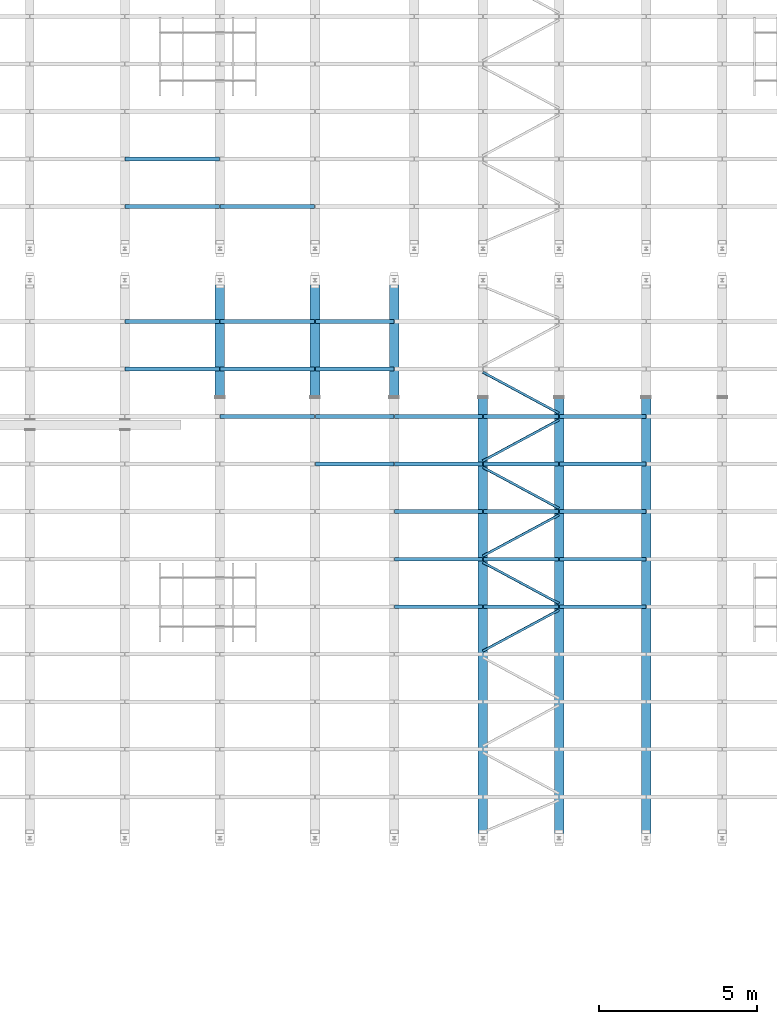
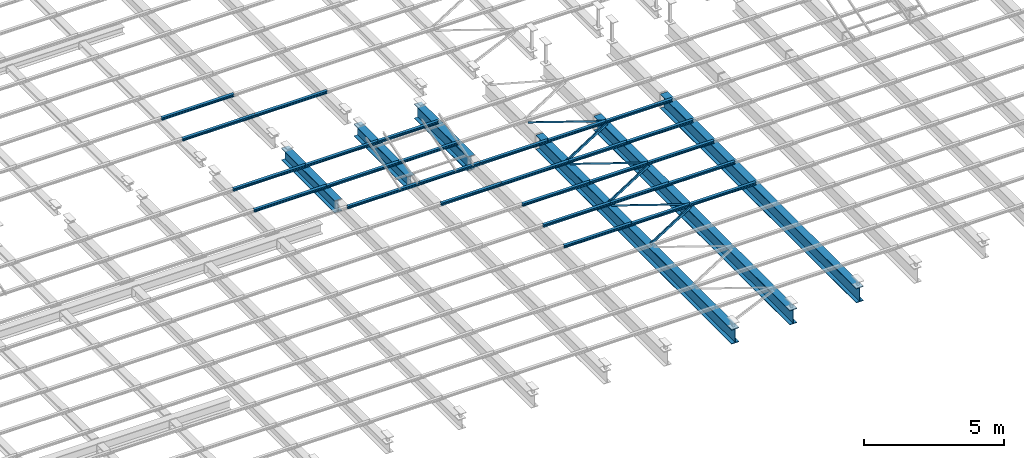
# One storey, part 72 of 139: 39 beams.
"""IFC2X3 building model written with IfcOpenShell, lengths in metres."""

from ifc_helpers import new_model, entity, si_unit, converted_unit, derived_unit, frame, origin, place, context, subcontext, project, spatial, polyline, outline, extrude, material, element, save


model = new_model("IFC2X3")

# Units and contexts
model_context = context("Model", 3, precision=1e-05, world=origin())
body_context = subcontext(model_context, "Body", "Model", "MODEL_VIEW")
ifc_project = project(units=[si_unit("LENGTHUNIT", "METRE"), si_unit("AREAUNIT", "SQUARE_METRE"), si_unit("VOLUMEUNIT", "CUBIC_METRE"), si_unit("MASSUNIT", "GRAM", prefix="KILO"), converted_unit("PLANEANGLEUNIT", "DEGREE", entity("IfcPlaneAngleMeasure", 0.0174532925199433), si_unit("PLANEANGLEUNIT", "RADIAN"), dimensions=[0, 0, 0, 0, 0, 0, 0]), derived_unit("THERMALTRANSMITTANCEUNIT", [(si_unit("POWERUNIT", "WATT"), 1), (si_unit("THERMODYNAMICTEMPERATUREUNIT", "KELVIN"), -1), (si_unit("LENGTHUNIT", "METRE"), -2)]), derived_unit("VOLUMETRICFLOWRATEUNIT", [(si_unit("LENGTHUNIT", "METRE"), 3), (converted_unit("TIMEUNIT", "hour", entity("IfcTimeMeasure", 3600.0), si_unit("TIMEUNIT", "SECOND"), dimensions=[0, 0, 1, 0, 0, 0, 0]), -1), (si_unit("LENGTHUNIT", "METRE"), -1)])], contexts=[model_context])

# Site, building, storey
site_placement = place(None, origin())
site = spatial("IfcSite", under=ifc_project, at=site_placement, Name="TWP_Speiseverteilzentrum SBW VZ II", CompositionType="ELEMENT")
building_placement = place(site_placement, origin())
building = spatial("IfcBuilding", under=site, at=building_placement, Name="Speiseverteilzentrum SBW VZ II", CompositionType="ELEMENT")
storey_placement = place(building_placement, frame((0.0, 0.0, 7.1307)))
storey = spatial("IfcBuildingStorey", under=building, at=storey_placement, Name="Wartung_FFB", CompositionType="ELEMENT", Elevation=7.1307)

# Beams
ifc_material_1 = material(Name="S235")
beam_1_placement = place(storey_placement, frame((81.5500000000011, 70.0522526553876, -0.51), z_axis=(0.0, 0.0, 1.0), x_axis=(-1.0, 0.0, 0.0)))
element("IfcBeam", 1, at=beam_1_placement, inside=storey, material=ifc_material_1, Name="Stahlträger", context=body_context, shape_type="SweptSolid", body=[
    extrude(outline(polyline([(-0.15, 0.32), (-0.15, 0.294), (-0.00675000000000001, 0.294), (-0.00675000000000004, -0.294), (-0.15, -0.294), (-0.15, -0.32), (0.15, -0.32), (0.15, -0.294), (0.00674999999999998, -0.294), (0.00675000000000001, 0.294), (0.15, 0.294), (0.15, 0.32), (-0.15, 0.32)])), frame((0.0, 0.0, 0.0), z_axis=(0.0, 1.0, 0.0), x_axis=(-1.0, 0.0, 0.0)), (0.0, 0.0, 1.0), 3.81699999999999),
])
ifc_material_2 = material(Name="S235")
beam_2_placement = place(storey_placement, frame((76.0500000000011, 70.0522526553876, -0.46), z_axis=(0.0, 0.0, 1.0), x_axis=(-1.0, 0.0, 0.0)))
element("IfcBeam", 2, at=beam_2_placement, inside=storey, material=ifc_material_2, Name="Stahlträger", context=body_context, shape_type="SweptSolid", body=[
    extrude(outline(polyline([(-0.15, 0.27), (-0.15, 0.246), (-0.0062499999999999, 0.246), (-0.00624999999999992, -0.246), (-0.15, -0.246), (-0.15, -0.27), (0.15, -0.27), (0.15, -0.246), (0.00625000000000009, -0.246), (0.00625000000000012, 0.246), (0.15, 0.246), (0.15, 0.27), (-0.15, 0.27)])), frame((0.0, 0.0, 0.0), z_axis=(0.0, 1.0, 0.0), x_axis=(-1.0, 0.0, 0.0)), (0.0, 0.0, 1.0), 3.81699999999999),
])
ifc_material_3 = material(Name="S235")
beam_3_placement = place(storey_placement, frame((79.0500000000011, 70.0522526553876, -0.46), z_axis=(0.0, 0.0, 1.0), x_axis=(-1.0, 0.0, 0.0)))
element("IfcBeam", 3, at=beam_3_placement, inside=storey, material=ifc_material_3, Name="Stahlträger", context=body_context, shape_type="SweptSolid", body=[
    extrude(outline(polyline([(-0.15, 0.27), (-0.15, 0.246), (-0.0062499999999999, 0.246), (-0.00624999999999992, -0.246), (-0.15, -0.246), (-0.15, -0.27), (0.15, -0.27), (0.15, -0.246), (0.00625000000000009, -0.246), (0.00625000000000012, 0.246), (0.15, 0.246), (0.15, 0.27), (-0.15, 0.27)])), frame((0.0, 0.0, 0.0), z_axis=(0.0, 1.0, 0.0), x_axis=(-1.0, 0.0, 0.0)), (0.0, 0.0, 1.0), 3.81699999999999),
])
ifc_material_4 = material(Name="S235")
beam_4_placement = place(storey_placement, frame((84.3500000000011, 66.1852526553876, -0.51), z_axis=(0.0, 0.0, 1.0), x_axis=(-1.0, 0.0, 0.0)))
element("IfcBeam", 4, at=beam_4_placement, inside=storey, material=ifc_material_4, Name="Stahlträger", context=body_context, shape_type="SweptSolid", body=[
    extrude(outline(polyline([(-0.15, 0.32), (-0.15, 0.294), (-0.00675000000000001, 0.294), (-0.00675000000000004, -0.294), (-0.15, -0.294), (-0.15, -0.32), (0.15, -0.32), (0.15, -0.294), (0.00674999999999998, -0.294), (0.00675000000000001, 0.294), (0.15, 0.294), (0.15, 0.32), (-0.15, 0.32)])), frame((0.0, 0.0, 0.0), z_axis=(0.0, 1.0, 0.0), x_axis=(-1.0, 0.0, 0.0)), (0.0, 0.0, 1.0), 14.0352526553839),
])
ifc_material_5 = material(Name="S235")
beam_5_placement = place(storey_placement, frame((86.7500000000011, 66.1852526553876, -0.51), z_axis=(0.0, 0.0, 1.0), x_axis=(-1.0, 0.0, 0.0)))
element("IfcBeam", 5, at=beam_5_placement, inside=storey, material=ifc_material_5, Name="Stahlträger", context=body_context, shape_type="SweptSolid", body=[
    extrude(outline(polyline([(-0.15, 0.32), (-0.15, 0.294), (-0.00675000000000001, 0.294), (-0.00675000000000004, -0.294), (-0.15, -0.294), (-0.15, -0.32), (0.15, -0.32), (0.15, -0.294), (0.00674999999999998, -0.294), (0.00675000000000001, 0.294), (0.15, 0.294), (0.15, 0.32), (-0.15, 0.32)])), frame((0.0, 0.0, 0.0), z_axis=(0.0, 1.0, 0.0), x_axis=(-1.0, 0.0, 0.0)), (0.0, 0.0, 1.0), 14.0352526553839),
])
ifc_material_6 = material(Name="S235")
beam_6_placement = place(storey_placement, frame((89.5000000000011, 66.1852526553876, -0.51), z_axis=(0.0, 0.0, 1.0), x_axis=(-1.0, 0.0, 0.0)))
element("IfcBeam", 6, at=beam_6_placement, inside=storey, material=ifc_material_6, Name="Stahlträger", context=body_context, shape_type="SweptSolid", body=[
    extrude(outline(polyline([(-0.15, 0.32), (-0.15, 0.294), (-0.00675000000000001, 0.294), (-0.00675000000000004, -0.294), (-0.15, -0.294), (-0.15, -0.32), (0.15, -0.32), (0.15, -0.294), (0.00674999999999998, -0.294), (0.00675000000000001, 0.294), (0.15, 0.294), (0.15, 0.32), (-0.15, 0.32)])), frame((0.0, 0.0, 0.0), z_axis=(0.0, 1.0, 0.0), x_axis=(-1.0, 0.0, 0.0)), (0.0, 0.0, 1.0), 14.0352526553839),
])
ifc_material_7 = material(Name="S235")
beam_7_placement = place(storey_placement, frame((73.0600000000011, 73.7261263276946, -0.133), z_axis=(0.0, 0.0, 1.0), x_axis=(0.0, -1.0, 0.0)))
element("IfcBeam", 7, at=beam_7_placement, inside=storey, material=ifc_material_7, Name="Nebenträger", context=body_context, shape_type="SweptSolid", body=[
    extrude(outline(polyline([(-0.06, 0.0570000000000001), (-0.06, 0.0490000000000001), (-0.00249999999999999, 0.0490000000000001), (-0.0025, -0.0489999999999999), (-0.06, -0.0489999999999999), (-0.06, -0.0569999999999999), (0.06, -0.0569999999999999), (0.06, -0.0489999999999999), (0.0025, -0.0489999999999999), (0.00250000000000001, 0.0490000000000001), (0.06, 0.0490000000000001), (0.06, 0.0570000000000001), (-0.06, 0.0570000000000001)])), frame((0.0, 0.0, 0.0), z_axis=(0.0, 1.0, 0.0), x_axis=(-1.0, 0.0, 0.0)), (0.0, 0.0, 1.0), 2.98),
])
ifc_material_8 = material(Name="S235")
beam_8_placement = place(storey_placement, frame((73.0600000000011, 72.2261263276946, -0.133), z_axis=(0.0, 0.0, 1.0), x_axis=(0.0, -1.0, 0.0)))
element("IfcBeam", 8, at=beam_8_placement, inside=storey, material=ifc_material_8, Name="Nebenträger", context=body_context, shape_type="SweptSolid", body=[
    extrude(outline(polyline([(-0.06, 0.0570000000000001), (-0.06, 0.0490000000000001), (-0.00249999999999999, 0.0490000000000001), (-0.0025, -0.0489999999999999), (-0.06, -0.0489999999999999), (-0.06, -0.0569999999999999), (0.06, -0.0569999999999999), (0.06, -0.0489999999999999), (0.0025, -0.0489999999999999), (0.00250000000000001, 0.0490000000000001), (0.06, 0.0490000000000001), (0.06, 0.0570000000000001), (-0.06, 0.0570000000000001)])), frame((0.0, 0.0, 0.0), z_axis=(0.0, 1.0, 0.0), x_axis=(-1.0, 0.0, 0.0)), (0.0, 0.0, 1.0), 2.98),
])
ifc_material_9 = material(Name="S235")
beam_9_placement = place(storey_placement, frame((76.0600000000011, 72.2261263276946, -0.133), z_axis=(0.0, 0.0, 1.0), x_axis=(0.0, -1.0, 0.0)))
element("IfcBeam", 9, at=beam_9_placement, inside=storey, material=ifc_material_9, Name="Nebenträger", context=body_context, shape_type="SweptSolid", body=[
    extrude(outline(polyline([(-0.06, 0.0570000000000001), (-0.06, 0.0490000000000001), (-0.00249999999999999, 0.0490000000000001), (-0.0025, -0.0489999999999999), (-0.06, -0.0489999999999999), (-0.06, -0.0569999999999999), (0.06, -0.0569999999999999), (0.06, -0.0489999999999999), (0.0025, -0.0489999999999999), (0.00250000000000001, 0.0490000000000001), (0.06, 0.0490000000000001), (0.06, 0.0570000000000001), (-0.06, 0.0570000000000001)])), frame((0.0, 0.0, 0.0), z_axis=(0.0, 1.0, 0.0), x_axis=(-1.0, 0.0, 0.0)), (0.0, 0.0, 1.0), 2.98),
])
ifc_material_10 = material(Name="S235")
beam_10_placement = place(storey_placement, frame((73.0600000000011, 68.6011263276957, -0.133), z_axis=(0.0, 0.0, 1.0), x_axis=(0.0, -1.0, 0.0)))
element("IfcBeam", 10, at=beam_10_placement, inside=storey, material=ifc_material_10, Name="Nebenträger", context=body_context, shape_type="SweptSolid", body=[
    extrude(outline(polyline([(-0.06, 0.0570000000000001), (-0.06, 0.0490000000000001), (-0.00249999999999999, 0.0490000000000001), (-0.0025, -0.0489999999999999), (-0.06, -0.0489999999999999), (-0.06, -0.0569999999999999), (0.06, -0.0569999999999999), (0.06, -0.0489999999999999), (0.0025, -0.0489999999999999), (0.00250000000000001, 0.0490000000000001), (0.06, 0.0490000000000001), (0.06, 0.0570000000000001), (-0.06, 0.0570000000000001)])), frame((0.0, 0.0, 0.0), z_axis=(0.0, 1.0, 0.0), x_axis=(-1.0, 0.0, 0.0)), (0.0, 0.0, 1.0), 2.98),
])
ifc_material_11 = material(Name="S235")
beam_11_placement = place(storey_placement, frame((76.0600000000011, 68.6011263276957, -0.133), z_axis=(0.0, 0.0, 1.0), x_axis=(0.0, -1.0, 0.0)))
element("IfcBeam", 11, at=beam_11_placement, inside=storey, material=ifc_material_11, Name="Nebenträger", context=body_context, shape_type="SweptSolid", body=[
    extrude(outline(polyline([(-0.06, 0.0570000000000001), (-0.06, 0.0490000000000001), (-0.00249999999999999, 0.0490000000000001), (-0.0025, -0.0489999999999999), (-0.06, -0.0489999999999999), (-0.06, -0.0569999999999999), (0.06, -0.0569999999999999), (0.06, -0.0489999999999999), (0.0025, -0.0489999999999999), (0.00250000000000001, 0.0490000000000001), (0.06, 0.0490000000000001), (0.06, 0.0570000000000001), (-0.06, 0.0570000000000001)])), frame((0.0, 0.0, 0.0), z_axis=(0.0, 1.0, 0.0), x_axis=(-1.0, 0.0, 0.0)), (0.0, 0.0, 1.0), 2.98),
])
ifc_material_12 = material(Name="S235")
beam_12_placement = place(storey_placement, frame((73.0600000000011, 67.1011263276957, -0.133), z_axis=(0.0, 0.0, 1.0), x_axis=(0.0, -1.0, 0.0)))
element("IfcBeam", 12, at=beam_12_placement, inside=storey, material=ifc_material_12, Name="Nebenträger", context=body_context, shape_type="SweptSolid", body=[
    extrude(outline(polyline([(-0.06, 0.0570000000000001), (-0.06, 0.0490000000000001), (-0.00249999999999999, 0.0490000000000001), (-0.0025, -0.0489999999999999), (-0.06, -0.0489999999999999), (-0.06, -0.0569999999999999), (0.06, -0.0569999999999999), (0.06, -0.0489999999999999), (0.0025, -0.0489999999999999), (0.00250000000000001, 0.0490000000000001), (0.06, 0.0490000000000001), (0.06, 0.0570000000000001), (-0.06, 0.0570000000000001)])), frame((0.0, 0.0, 0.0), z_axis=(0.0, 1.0, 0.0), x_axis=(-1.0, 0.0, 0.0)), (0.0, 0.0, 1.0), 2.98),
])
ifc_material_13 = material(Name="S235")
beam_13_placement = place(storey_placement, frame((76.0600000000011, 67.1011263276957, -0.133), z_axis=(0.0, 0.0, 1.0), x_axis=(0.0, -1.0, 0.0)))
element("IfcBeam", 13, at=beam_13_placement, inside=storey, material=ifc_material_13, Name="Nebenträger", context=body_context, shape_type="SweptSolid", body=[
    extrude(outline(polyline([(-0.06, 0.0570000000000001), (-0.06, 0.0490000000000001), (-0.00249999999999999, 0.0490000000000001), (-0.0025, -0.0489999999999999), (-0.06, -0.0489999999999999), (-0.06, -0.0569999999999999), (0.06, -0.0569999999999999), (0.06, -0.0489999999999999), (0.0025, -0.0489999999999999), (0.00250000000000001, 0.0490000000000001), (0.06, 0.0490000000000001), (0.06, 0.0570000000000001), (-0.06, 0.0570000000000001)])), frame((0.0, 0.0, 0.0), z_axis=(0.0, 1.0, 0.0), x_axis=(-1.0, 0.0, 0.0)), (0.0, 0.0, 1.0), 2.98),
])
ifc_material_14 = material(Name="S235")
beam_14_placement = place(storey_placement, frame((76.0600000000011, 65.6011263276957, -0.133), z_axis=(0.0, 0.0, 1.0), x_axis=(0.0, -1.0, 0.0)))
element("IfcBeam", 14, at=beam_14_placement, inside=storey, material=ifc_material_14, Name="Nebenträger", context=body_context, shape_type="SweptSolid", body=[
    extrude(outline(polyline([(-0.06, 0.0570000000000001), (-0.06, 0.0490000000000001), (-0.00249999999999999, 0.0490000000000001), (-0.0025, -0.0489999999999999), (-0.06, -0.0489999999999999), (-0.06, -0.0569999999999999), (0.06, -0.0569999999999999), (0.06, -0.0489999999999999), (0.0025, -0.0489999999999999), (0.00250000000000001, 0.0490000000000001), (0.06, 0.0490000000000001), (0.06, 0.0570000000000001), (-0.06, 0.0570000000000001)])), frame((0.0, 0.0, 0.0), z_axis=(0.0, 1.0, 0.0), x_axis=(-1.0, 0.0, 0.0)), (0.0, 0.0, 1.0), 2.98),
])
ifc_material_15 = material(Name="S235")
beam_15_placement = place(storey_placement, frame((79.0600000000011, 68.6011263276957, -0.133), z_axis=(0.0, 0.0, 1.0), x_axis=(0.0, -1.0, 0.0)))
element("IfcBeam", 15, at=beam_15_placement, inside=storey, material=ifc_material_15, Name="Nebenträger", context=body_context, shape_type="SweptSolid", body=[
    extrude(outline(polyline([(-0.06, 0.0570000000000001), (-0.06, 0.0490000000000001), (-0.00249999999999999, 0.0490000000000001), (-0.0025, -0.0489999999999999), (-0.06, -0.0489999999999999), (-0.06, -0.0569999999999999), (0.06, -0.0569999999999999), (0.06, -0.0489999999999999), (0.0025, -0.0489999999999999), (0.00250000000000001, 0.0490000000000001), (0.06, 0.0490000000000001), (0.06, 0.0570000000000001), (-0.06, 0.0570000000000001)])), frame((0.0, 0.0, 0.0), z_axis=(0.0, 1.0, 0.0), x_axis=(-1.0, 0.0, 0.0)), (0.0, 0.0, 1.0), 2.48),
])
ifc_material_16 = material(Name="S235")
beam_16_placement = place(storey_placement, frame((79.0600000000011, 67.1011263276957, -0.133), z_axis=(0.0, 0.0, 1.0), x_axis=(0.0, -1.0, 0.0)))
element("IfcBeam", 16, at=beam_16_placement, inside=storey, material=ifc_material_16, Name="Nebenträger", context=body_context, shape_type="SweptSolid", body=[
    extrude(outline(polyline([(-0.06, 0.0570000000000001), (-0.06, 0.0490000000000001), (-0.00249999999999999, 0.0490000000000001), (-0.0025, -0.0489999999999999), (-0.06, -0.0489999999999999), (-0.06, -0.0569999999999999), (0.06, -0.0569999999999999), (0.06, -0.0489999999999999), (0.0025, -0.0489999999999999), (0.00250000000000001, 0.0490000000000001), (0.06, 0.0490000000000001), (0.06, 0.0570000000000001), (-0.06, 0.0570000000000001)])), frame((0.0, 0.0, 0.0), z_axis=(0.0, 1.0, 0.0), x_axis=(-1.0, 0.0, 0.0)), (0.0, 0.0, 1.0), 2.48),
])
ifc_material_17 = material(Name="S235")
beam_17_placement = place(storey_placement, frame((79.0600000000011, 65.6011263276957, -0.133), z_axis=(0.0, 0.0, 1.0), x_axis=(0.0, -1.0, 0.0)))
element("IfcBeam", 17, at=beam_17_placement, inside=storey, material=ifc_material_17, Name="Nebenträger", context=body_context, shape_type="SweptSolid", body=[
    extrude(outline(polyline([(-0.06, 0.0570000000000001), (-0.06, 0.0490000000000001), (-0.00249999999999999, 0.0490000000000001), (-0.0025, -0.0489999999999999), (-0.06, -0.0489999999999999), (-0.06, -0.0569999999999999), (0.06, -0.0569999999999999), (0.06, -0.0489999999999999), (0.0025, -0.0489999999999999), (0.00250000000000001, 0.0490000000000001), (0.06, 0.0490000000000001), (0.06, 0.0570000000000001), (-0.06, 0.0570000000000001)])), frame((0.0, 0.0, 0.0), z_axis=(0.0, 1.0, 0.0), x_axis=(-1.0, 0.0, 0.0)), (0.0, 0.0, 1.0), 2.48),
])
ifc_material_18 = material(Name="S235")
beam_18_placement = place(storey_placement, frame((79.0600000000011, 64.1011263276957, -0.133), z_axis=(0.0, 0.0, 1.0), x_axis=(0.0, -1.0, 0.0)))
element("IfcBeam", 18, at=beam_18_placement, inside=storey, material=ifc_material_18, Name="Nebenträger", context=body_context, shape_type="SweptSolid", body=[
    extrude(outline(polyline([(-0.06, 0.0570000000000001), (-0.06, 0.0490000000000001), (-0.00249999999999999, 0.0490000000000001), (-0.0025, -0.0489999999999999), (-0.06, -0.0489999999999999), (-0.06, -0.0569999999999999), (0.06, -0.0569999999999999), (0.06, -0.0489999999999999), (0.0025, -0.0489999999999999), (0.00250000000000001, 0.0490000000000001), (0.06, 0.0490000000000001), (0.06, 0.0570000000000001), (-0.06, 0.0570000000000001)])), frame((0.0, 0.0, 0.0), z_axis=(0.0, 1.0, 0.0), x_axis=(-1.0, 0.0, 0.0)), (0.0, 0.0, 1.0), 2.48),
])
ifc_material_19 = material(Name="S235")
beam_19_placement = place(storey_placement, frame((81.5600000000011, 65.6011263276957, -0.133), z_axis=(0.0, 0.0, 1.0), x_axis=(0.0, -1.0, 0.0)))
element("IfcBeam", 19, at=beam_19_placement, inside=storey, material=ifc_material_19, Name="Nebenträger", context=body_context, shape_type="SweptSolid", body=[
    extrude(outline(polyline([(-0.06, 0.0570000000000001), (-0.06, 0.0490000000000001), (-0.00249999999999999, 0.0490000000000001), (-0.0025, -0.0489999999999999), (-0.06, -0.0489999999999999), (-0.06, -0.0569999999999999), (0.06, -0.0569999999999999), (0.06, -0.0489999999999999), (0.0025, -0.0489999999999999), (0.00250000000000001, 0.0490000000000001), (0.06, 0.0490000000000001), (0.06, 0.0570000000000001), (-0.06, 0.0570000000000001)])), frame((0.0, 0.0, 0.0), z_axis=(0.0, 1.0, 0.0), x_axis=(-1.0, 0.0, 0.0)), (0.0, 0.0, 1.0), 2.78),
])
ifc_material_20 = material(Name="S235")
beam_20_placement = place(storey_placement, frame((81.5600000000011, 64.1011263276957, -0.133), z_axis=(0.0, 0.0, 1.0), x_axis=(0.0, -1.0, 0.0)))
element("IfcBeam", 20, at=beam_20_placement, inside=storey, material=ifc_material_20, Name="Nebenträger", context=body_context, shape_type="SweptSolid", body=[
    extrude(outline(polyline([(-0.06, 0.0570000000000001), (-0.06, 0.0490000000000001), (-0.00249999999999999, 0.0490000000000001), (-0.0025, -0.0489999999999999), (-0.06, -0.0489999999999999), (-0.06, -0.0569999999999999), (0.06, -0.0569999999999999), (0.06, -0.0489999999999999), (0.0025, -0.0489999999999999), (0.00250000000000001, 0.0490000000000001), (0.06, 0.0490000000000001), (0.06, 0.0570000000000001), (-0.06, 0.0570000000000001)])), frame((0.0, 0.0, 0.0), z_axis=(0.0, 1.0, 0.0), x_axis=(-1.0, 0.0, 0.0)), (0.0, 0.0, 1.0), 2.78),
])
ifc_material_21 = material(Name="S235")
beam_21_placement = place(storey_placement, frame((81.5600000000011, 62.6011263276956, -0.133), z_axis=(0.0, 0.0, 1.0), x_axis=(0.0, -1.0, 0.0)))
element("IfcBeam", 21, at=beam_21_placement, inside=storey, material=ifc_material_21, Name="Nebenträger", context=body_context, shape_type="SweptSolid", body=[
    extrude(outline(polyline([(-0.06, 0.0570000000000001), (-0.06, 0.0490000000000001), (-0.00249999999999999, 0.0490000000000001), (-0.0025, -0.0489999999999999), (-0.06, -0.0489999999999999), (-0.06, -0.0569999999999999), (0.06, -0.0569999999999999), (0.06, -0.0489999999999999), (0.0025, -0.0489999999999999), (0.00250000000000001, 0.0490000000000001), (0.06, 0.0490000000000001), (0.06, 0.0570000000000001), (-0.06, 0.0570000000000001)])), frame((0.0, 0.0, 0.0), z_axis=(0.0, 1.0, 0.0), x_axis=(-1.0, 0.0, 0.0)), (0.0, 0.0, 1.0), 2.78),
])
ifc_material_22 = material(Name="S235")
beam_22_placement = place(storey_placement, frame((81.5600000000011, 61.1011263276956, -0.133), z_axis=(0.0, 0.0, 1.0), x_axis=(0.0, -1.0, 0.0)))
element("IfcBeam", 22, at=beam_22_placement, inside=storey, material=ifc_material_22, Name="Nebenträger", context=body_context, shape_type="SweptSolid", body=[
    extrude(outline(polyline([(-0.06, 0.0570000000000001), (-0.06, 0.0490000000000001), (-0.00249999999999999, 0.0490000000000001), (-0.0025, -0.0489999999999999), (-0.06, -0.0489999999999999), (-0.06, -0.0569999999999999), (0.06, -0.0569999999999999), (0.06, -0.0489999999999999), (0.0025, -0.0489999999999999), (0.00250000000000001, 0.0490000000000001), (0.06, 0.0490000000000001), (0.06, 0.0570000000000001), (-0.06, 0.0570000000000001)])), frame((0.0, 0.0, 0.0), z_axis=(0.0, 1.0, 0.0), x_axis=(-1.0, 0.0, 0.0)), (0.0, 0.0, 1.0), 2.78),
])
ifc_material_23 = material(Name="S235")
beam_23_placement = place(storey_placement, frame((81.5600000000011, 59.6011263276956, -0.133), z_axis=(0.0, 0.0, 1.0), x_axis=(0.0, -1.0, 0.0)))
element("IfcBeam", 23, at=beam_23_placement, inside=storey, material=ifc_material_23, Name="Nebenträger", context=body_context, shape_type="SweptSolid", body=[
    extrude(outline(polyline([(-0.06, 0.0570000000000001), (-0.06, 0.0490000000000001), (-0.00249999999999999, 0.0490000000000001), (-0.0025, -0.0489999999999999), (-0.06, -0.0489999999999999), (-0.06, -0.0569999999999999), (0.06, -0.0569999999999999), (0.06, -0.0489999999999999), (0.0025, -0.0489999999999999), (0.00250000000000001, 0.0490000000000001), (0.06, 0.0490000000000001), (0.06, 0.0570000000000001), (-0.06, 0.0570000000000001)])), frame((0.0, 0.0, 0.0), z_axis=(0.0, 1.0, 0.0), x_axis=(-1.0, 0.0, 0.0)), (0.0, 0.0, 1.0), 2.78),
])
ifc_material_24 = material(Name="S235")
beam_24_placement = place(storey_placement, frame((84.3600000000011, 65.6011263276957, -0.133), z_axis=(0.0, 0.0, 1.0), x_axis=(0.0, -1.0, 0.0)))
element("IfcBeam", 24, at=beam_24_placement, inside=storey, material=ifc_material_24, Name="Nebenträger", context=body_context, shape_type="SweptSolid", body=[
    extrude(outline(polyline([(-0.06, 0.0570000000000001), (-0.06, 0.0490000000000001), (-0.00249999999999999, 0.0490000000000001), (-0.0025, -0.0489999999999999), (-0.06, -0.0489999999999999), (-0.06, -0.0569999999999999), (0.06, -0.0569999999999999), (0.06, -0.0489999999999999), (0.0025, -0.0489999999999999), (0.00250000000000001, 0.0490000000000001), (0.06, 0.0490000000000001), (0.06, 0.0570000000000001), (-0.06, 0.0570000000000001)])), frame((0.0, 0.0, 0.0), z_axis=(0.0, 1.0, 0.0), x_axis=(-1.0, 0.0, 0.0)), (0.0, 0.0, 1.0), 2.38),
])
ifc_material_25 = material(Name="S235")
beam_25_placement = place(storey_placement, frame((84.3600000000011, 64.1011263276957, -0.133), z_axis=(0.0, 0.0, 1.0), x_axis=(0.0, -1.0, 0.0)))
element("IfcBeam", 25, at=beam_25_placement, inside=storey, material=ifc_material_25, Name="Nebenträger", context=body_context, shape_type="SweptSolid", body=[
    extrude(outline(polyline([(-0.06, 0.0570000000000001), (-0.06, 0.0490000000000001), (-0.00249999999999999, 0.0490000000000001), (-0.0025, -0.0489999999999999), (-0.06, -0.0489999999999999), (-0.06, -0.0569999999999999), (0.06, -0.0569999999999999), (0.06, -0.0489999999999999), (0.0025, -0.0489999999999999), (0.00250000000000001, 0.0490000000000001), (0.06, 0.0490000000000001), (0.06, 0.0570000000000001), (-0.06, 0.0570000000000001)])), frame((0.0, 0.0, 0.0), z_axis=(0.0, 1.0, 0.0), x_axis=(-1.0, 0.0, 0.0)), (0.0, 0.0, 1.0), 2.38),
])
ifc_material_26 = material(Name="S235")
beam_26_placement = place(storey_placement, frame((84.3600000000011, 62.6011263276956, -0.133), z_axis=(0.0, 0.0, 1.0), x_axis=(0.0, -1.0, 0.0)))
element("IfcBeam", 26, at=beam_26_placement, inside=storey, material=ifc_material_26, Name="Nebenträger", context=body_context, shape_type="SweptSolid", body=[
    extrude(outline(polyline([(-0.06, 0.0570000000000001), (-0.06, 0.0490000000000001), (-0.00249999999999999, 0.0490000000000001), (-0.0025, -0.0489999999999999), (-0.06, -0.0489999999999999), (-0.06, -0.0569999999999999), (0.06, -0.0569999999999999), (0.06, -0.0489999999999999), (0.0025, -0.0489999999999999), (0.00250000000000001, 0.0490000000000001), (0.06, 0.0490000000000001), (0.06, 0.0570000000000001), (-0.06, 0.0570000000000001)])), frame((0.0, 0.0, 0.0), z_axis=(0.0, 1.0, 0.0), x_axis=(-1.0, 0.0, 0.0)), (0.0, 0.0, 1.0), 2.38),
])
ifc_material_27 = material(Name="S235")
beam_27_placement = place(storey_placement, frame((84.3600000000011, 61.1011263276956, -0.133), z_axis=(0.0, 0.0, 1.0), x_axis=(0.0, -1.0, 0.0)))
element("IfcBeam", 27, at=beam_27_placement, inside=storey, material=ifc_material_27, Name="Nebenträger", context=body_context, shape_type="SweptSolid", body=[
    extrude(outline(polyline([(-0.06, 0.0570000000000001), (-0.06, 0.0490000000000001), (-0.00249999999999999, 0.0490000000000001), (-0.0025, -0.0489999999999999), (-0.06, -0.0489999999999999), (-0.06, -0.0569999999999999), (0.06, -0.0569999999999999), (0.06, -0.0489999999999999), (0.0025, -0.0489999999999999), (0.00250000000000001, 0.0490000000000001), (0.06, 0.0490000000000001), (0.06, 0.0570000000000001), (-0.06, 0.0570000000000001)])), frame((0.0, 0.0, 0.0), z_axis=(0.0, 1.0, 0.0), x_axis=(-1.0, 0.0, 0.0)), (0.0, 0.0, 1.0), 2.38),
])
ifc_material_28 = material(Name="S235")
beam_28_placement = place(storey_placement, frame((84.3600000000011, 59.6011263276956, -0.133), z_axis=(0.0, 0.0, 1.0), x_axis=(0.0, -1.0, 0.0)))
element("IfcBeam", 28, at=beam_28_placement, inside=storey, material=ifc_material_28, Name="Nebenträger", context=body_context, shape_type="SweptSolid", body=[
    extrude(outline(polyline([(-0.06, 0.0570000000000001), (-0.06, 0.0490000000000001), (-0.00249999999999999, 0.0490000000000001), (-0.0025, -0.0489999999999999), (-0.06, -0.0489999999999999), (-0.06, -0.0569999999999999), (0.06, -0.0569999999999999), (0.06, -0.0489999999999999), (0.0025, -0.0489999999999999), (0.00250000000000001, 0.0490000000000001), (0.06, 0.0490000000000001), (0.06, 0.0570000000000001), (-0.06, 0.0570000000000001)])), frame((0.0, 0.0, 0.0), z_axis=(0.0, 1.0, 0.0), x_axis=(-1.0, 0.0, 0.0)), (0.0, 0.0, 1.0), 2.38),
])
ifc_material_29 = material(Name="S235")
beam_29_placement = place(storey_placement, frame((86.7600000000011, 65.6011263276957, -0.133), z_axis=(0.0, 0.0, 1.0), x_axis=(0.0, -1.0, 0.0)))
element("IfcBeam", 29, at=beam_29_placement, inside=storey, material=ifc_material_29, Name="Nebenträger", context=body_context, shape_type="SweptSolid", body=[
    extrude(outline(polyline([(-0.06, 0.0570000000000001), (-0.06, 0.0490000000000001), (-0.00249999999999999, 0.0490000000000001), (-0.0025, -0.0489999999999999), (-0.06, -0.0489999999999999), (-0.06, -0.0569999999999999), (0.06, -0.0569999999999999), (0.06, -0.0489999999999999), (0.0025, -0.0489999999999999), (0.00250000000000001, 0.0490000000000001), (0.06, 0.0490000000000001), (0.06, 0.0570000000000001), (-0.06, 0.0570000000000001)])), frame((0.0, 0.0, 0.0), z_axis=(0.0, 1.0, 0.0), x_axis=(-1.0, 0.0, 0.0)), (0.0, 0.0, 1.0), 2.73),
])
ifc_material_30 = material(Name="S235")
beam_30_placement = place(storey_placement, frame((86.7600000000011, 64.1011263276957, -0.133), z_axis=(0.0, 0.0, 1.0), x_axis=(0.0, -1.0, 0.0)))
element("IfcBeam", 30, at=beam_30_placement, inside=storey, material=ifc_material_30, Name="Nebenträger", context=body_context, shape_type="SweptSolid", body=[
    extrude(outline(polyline([(-0.06, 0.0570000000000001), (-0.06, 0.0490000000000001), (-0.00249999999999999, 0.0490000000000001), (-0.0025, -0.0489999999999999), (-0.06, -0.0489999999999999), (-0.06, -0.0569999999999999), (0.06, -0.0569999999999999), (0.06, -0.0489999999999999), (0.0025, -0.0489999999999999), (0.00250000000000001, 0.0490000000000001), (0.06, 0.0490000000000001), (0.06, 0.0570000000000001), (-0.06, 0.0570000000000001)])), frame((0.0, 0.0, 0.0), z_axis=(0.0, 1.0, 0.0), x_axis=(-1.0, 0.0, 0.0)), (0.0, 0.0, 1.0), 2.73),
])
ifc_material_31 = material(Name="S235")
beam_31_placement = place(storey_placement, frame((86.7600000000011, 62.6011263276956, -0.133), z_axis=(0.0, 0.0, 1.0), x_axis=(0.0, -1.0, 0.0)))
element("IfcBeam", 31, at=beam_31_placement, inside=storey, material=ifc_material_31, Name="Nebenträger", context=body_context, shape_type="SweptSolid", body=[
    extrude(outline(polyline([(-0.06, 0.0570000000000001), (-0.06, 0.0490000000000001), (-0.00249999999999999, 0.0490000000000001), (-0.0025, -0.0489999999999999), (-0.06, -0.0489999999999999), (-0.06, -0.0569999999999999), (0.06, -0.0569999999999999), (0.06, -0.0489999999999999), (0.0025, -0.0489999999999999), (0.00250000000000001, 0.0490000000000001), (0.06, 0.0490000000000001), (0.06, 0.0570000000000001), (-0.06, 0.0570000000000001)])), frame((0.0, 0.0, 0.0), z_axis=(0.0, 1.0, 0.0), x_axis=(-1.0, 0.0, 0.0)), (0.0, 0.0, 1.0), 2.73),
])
ifc_material_32 = material(Name="S235")
beam_32_placement = place(storey_placement, frame((86.7600000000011, 61.1011263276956, -0.133), z_axis=(0.0, 0.0, 1.0), x_axis=(0.0, -1.0, 0.0)))
element("IfcBeam", 32, at=beam_32_placement, inside=storey, material=ifc_material_32, Name="Nebenträger", context=body_context, shape_type="SweptSolid", body=[
    extrude(outline(polyline([(-0.06, 0.0570000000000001), (-0.06, 0.0490000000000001), (-0.00249999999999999, 0.0490000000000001), (-0.0025, -0.0489999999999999), (-0.06, -0.0489999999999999), (-0.06, -0.0569999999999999), (0.06, -0.0569999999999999), (0.06, -0.0489999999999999), (0.0025, -0.0489999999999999), (0.00250000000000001, 0.0490000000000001), (0.06, 0.0490000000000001), (0.06, 0.0570000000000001), (-0.06, 0.0570000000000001)])), frame((0.0, 0.0, 0.0), z_axis=(0.0, 1.0, 0.0), x_axis=(-1.0, 0.0, 0.0)), (0.0, 0.0, 1.0), 2.73),
])
ifc_material_33 = material(Name="S235")
beam_33_placement = place(storey_placement, frame((86.7600000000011, 59.6011263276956, -0.133), z_axis=(0.0, 0.0, 1.0), x_axis=(0.0, -1.0, 0.0)))
element("IfcBeam", 33, at=beam_33_placement, inside=storey, material=ifc_material_33, Name="Nebenträger", context=body_context, shape_type="SweptSolid", body=[
    extrude(outline(polyline([(-0.06, 0.0570000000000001), (-0.06, 0.0490000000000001), (-0.00249999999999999, 0.0490000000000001), (-0.0025, -0.0489999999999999), (-0.06, -0.0489999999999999), (-0.06, -0.0569999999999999), (0.06, -0.0569999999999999), (0.06, -0.0489999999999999), (0.0025, -0.0489999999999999), (0.00250000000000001, 0.0490000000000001), (0.06, 0.0490000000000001), (0.06, 0.0570000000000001), (-0.06, 0.0570000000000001)])), frame((0.0, 0.0, 0.0), z_axis=(0.0, 1.0, 0.0), x_axis=(-1.0, 0.0, 0.0)), (0.0, 0.0, 1.0), 2.73),
])
ifc_material_34 = material(Name="S235")
beam_34_placement = place(storey_placement, frame((84.3361915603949, 66.9849120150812, -0.167052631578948), z_axis=(0.0, 0.0, 1.0), x_axis=(-0.47480336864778, -0.880091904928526, 0.0)))
element("IfcBeam", 34, at=beam_34_placement, inside=storey, material=ifc_material_34, Name="Kreuzverband", context=body_context, shape_type="SweptSolid", body=[
    extrude(outline(polyline([(0.0570526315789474, -0.0229473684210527), (0.0570526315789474, -0.0149473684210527), (-0.0149473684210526, -0.0149473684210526), (-0.0149473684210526, 0.0570526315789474), (-0.0229473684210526, 0.0570526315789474), (-0.0229473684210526, -0.0229473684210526), (0.0570526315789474, -0.0229473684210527)])), frame((0.0, 0.0, 0.0), z_axis=(0.0, 1.00000000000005, 0.0), x_axis=(-1.0, 0.0, 0.0)), (0.0, 0.0, 1.0), 2.73000000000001),
])
ifc_material_35 = material(Name="S235")
beam_35_placement = place(storey_placement, frame((84.3361915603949, 64.2173406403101, -0.167052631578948), z_axis=(0.0, 0.0, 1.0), x_axis=(0.474803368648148, -0.880091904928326, 0.0)))
element("IfcBeam", 35, at=beam_35_placement, inside=storey, material=ifc_material_35, Name="Kreuzverband", context=body_context, shape_type="SweptSolid", body=[
    extrude(outline(polyline([(0.0229473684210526, -0.0229473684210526), (0.0229473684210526, 0.0570526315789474), (0.0149473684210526, 0.0570526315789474), (0.0149473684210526, -0.0149473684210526), (-0.0570526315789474, -0.0149473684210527), (-0.0570526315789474, -0.0229473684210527), (0.0229473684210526, -0.0229473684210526)])), frame((0.0, 0.0, 0.0), z_axis=(0.0, 1.00000000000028, 0.0), x_axis=(-1.0, 0.0, 0.0)), (0.0, 0.0, 1.0), 2.73000000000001),
])
ifc_material_36 = material(Name="S235")
beam_36_placement = place(storey_placement, frame((84.3361915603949, 63.9849120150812, -0.167052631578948), z_axis=(0.0, 0.0, 1.0), x_axis=(-0.47480336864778, -0.880091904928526, 0.0)))
element("IfcBeam", 36, at=beam_36_placement, inside=storey, material=ifc_material_36, Name="Kreuzverband", context=body_context, shape_type="SweptSolid", body=[
    extrude(outline(polyline([(0.0570526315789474, -0.0229473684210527), (0.0570526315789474, -0.0149473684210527), (-0.0149473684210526, -0.0149473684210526), (-0.0149473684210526, 0.0570526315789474), (-0.0229473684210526, 0.0570526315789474), (-0.0229473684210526, -0.0229473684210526), (0.0570526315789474, -0.0229473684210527)])), frame((0.0, 0.0, 0.0), z_axis=(0.0, 1.00000000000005, 0.0), x_axis=(-1.0, 0.0, 0.0)), (0.0, 0.0, 1.0), 2.73000000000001),
])
ifc_material_37 = material(Name="S235")
beam_37_placement = place(storey_placement, frame((84.3361915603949, 61.2173406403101, -0.167052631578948), z_axis=(0.0, 0.0, 1.0), x_axis=(0.474803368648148, -0.880091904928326, 0.0)))
element("IfcBeam", 37, at=beam_37_placement, inside=storey, material=ifc_material_37, Name="Kreuzverband", context=body_context, shape_type="SweptSolid", body=[
    extrude(outline(polyline([(0.0229473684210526, -0.0229473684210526), (0.0229473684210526, 0.0570526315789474), (0.0149473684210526, 0.0570526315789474), (0.0149473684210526, -0.0149473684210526), (-0.0570526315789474, -0.0149473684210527), (-0.0570526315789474, -0.0229473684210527), (0.0229473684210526, -0.0229473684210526)])), frame((0.0, 0.0, 0.0), z_axis=(0.0, 1.00000000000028, 0.0), x_axis=(-1.0, 0.0, 0.0)), (0.0, 0.0, 1.0), 2.73000000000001),
])
ifc_material_38 = material(Name="S235")
beam_38_placement = place(storey_placement, frame((84.3361915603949, 60.9849120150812, -0.167052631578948), z_axis=(0.0, 0.0, 1.0), x_axis=(-0.47480336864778, -0.880091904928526, 0.0)))
element("IfcBeam", 38, at=beam_38_placement, inside=storey, material=ifc_material_38, Name="Kreuzverband", context=body_context, shape_type="SweptSolid", body=[
    extrude(outline(polyline([(0.0570526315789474, -0.0229473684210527), (0.0570526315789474, -0.0149473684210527), (-0.0149473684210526, -0.0149473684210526), (-0.0149473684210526, 0.0570526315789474), (-0.0229473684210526, 0.0570526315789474), (-0.0229473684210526, -0.0229473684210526), (0.0570526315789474, -0.0229473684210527)])), frame((0.0, 0.0, 0.0), z_axis=(0.0, 1.00000000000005, 0.0), x_axis=(-1.0, 0.0, 0.0)), (0.0, 0.0, 1.0), 2.73000000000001),
])
ifc_material_39 = material(Name="S235")
beam_39_placement = place(storey_placement, frame((84.3361915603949, 58.2173406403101, -0.167052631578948), z_axis=(0.0, 0.0, 1.0), x_axis=(0.474803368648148, -0.880091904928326, 0.0)))
element("IfcBeam", 39, at=beam_39_placement, inside=storey, material=ifc_material_39, Name="Kreuzverband", context=body_context, shape_type="SweptSolid", body=[
    extrude(outline(polyline([(0.0229473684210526, -0.0229473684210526), (0.0229473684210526, 0.0570526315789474), (0.0149473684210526, 0.0570526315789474), (0.0149473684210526, -0.0149473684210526), (-0.0570526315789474, -0.0149473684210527), (-0.0570526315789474, -0.0229473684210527), (0.0229473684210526, -0.0229473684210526)])), frame((0.0, 0.0, 0.0), z_axis=(0.0, 1.00000000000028, 0.0), x_axis=(-1.0, 0.0, 0.0)), (0.0, 0.0, 1.0), 2.73000000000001),
])

save(model, "model.ifc")
